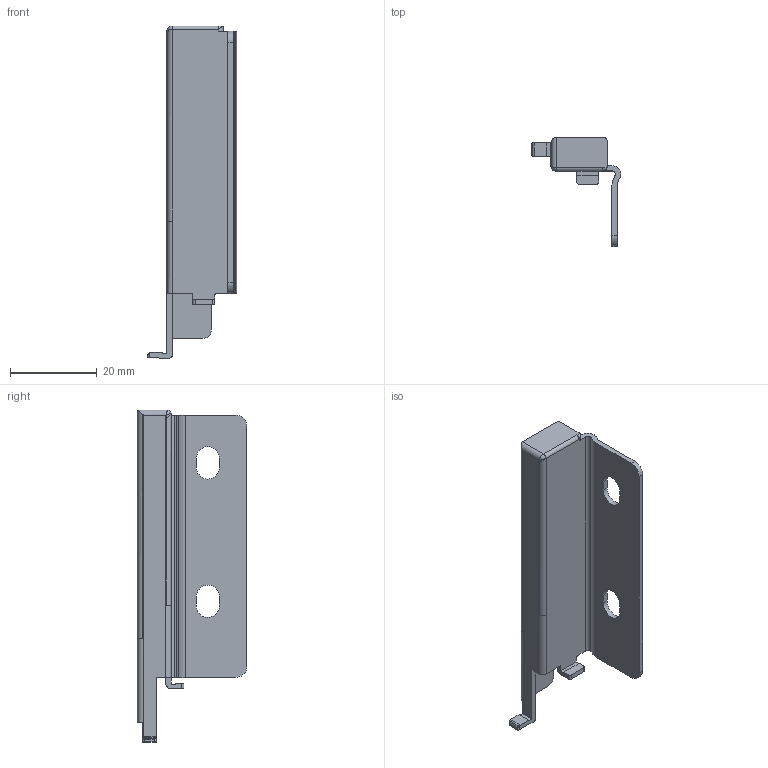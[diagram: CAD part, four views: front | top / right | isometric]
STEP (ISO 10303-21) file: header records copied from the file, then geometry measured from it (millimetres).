
FILE_DESCRIPTION (( 'STEP AP203' ), '1' );
FILE_NAME ('HT11031-L.STEP', '2019-07-08T06:06:42', ( 'ww' ), ( 'Microsoft' ), 'SwSTEP 2.0', 'SolidWorks 2012', '' );
FILE_SCHEMA (( 'CONFIG_CONTROL_DESIGN' ));
Length unit declared in the file: millimetre
Products named in the file (1): HT11031-L
Bounding box: 20.6 x 25.3 x 76.7 mm (x, y, z)
Volume: 6740.1 mm3; surface area: 5537.9 mm2
Topology: 1 solids, 1 shells, 112 faces, 324 edges, 214 vertices
Faces by surface type: plane 70, cylinder 33, bspline 9
Entity records: 4047 total; most frequent: CARTESIAN_POINT 1053, ORIENTED_EDGE 646, DIRECTION 558, EDGE_CURVE 323, VECTOR 240, LINE 240, VERTEX_POINT 214, AXIS2_PLACEMENT_3D 159
